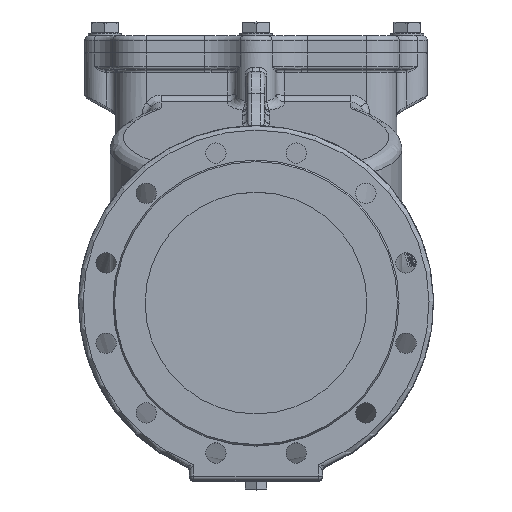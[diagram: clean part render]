
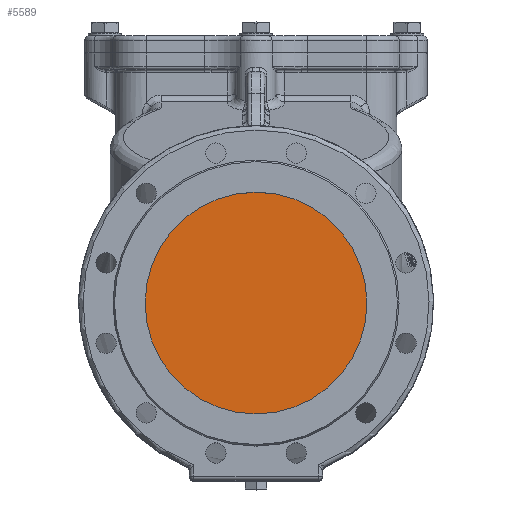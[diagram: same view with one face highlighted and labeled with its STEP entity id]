
A CAD part, top view. The second image highlights one B-rep face of the part: STEP entity #5589.
In plain terms, the highlighted planar face has unit normal (0, 0, 1).
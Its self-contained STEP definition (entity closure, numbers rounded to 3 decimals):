
#5589=ADVANCED_FACE('',(#15668),#15670,.T.);
#15668=FACE_BOUND('',#15669,.T.);
#15669=EDGE_LOOP('',(#20158));
#15670=PLANE('',#15671);
#15671=AXIS2_PLACEMENT_3D('',#15672,#15673,#15674);
#15672=CARTESIAN_POINT('',(0.,0.,590.));
#15673=DIRECTION('',(0.,0.,1.));
#15674=DIRECTION('',(1.,0.,0.));
#20158=ORIENTED_EDGE('',*,*,#22900,.T.);
#22900=EDGE_CURVE('',#25864,#25864,#25865,.T.);
#25864=VERTEX_POINT('',#60436);
#25865=CIRCLE('',#60437,125.);
#60436=CARTESIAN_POINT('',(0.,-125.,590.));
#60437=AXIS2_PLACEMENT_3D('',#60438,#60439,#60440);
#60438=CARTESIAN_POINT('',(0.,0.,590.));
#60439=DIRECTION('',(0.,0.,1.));
#60440=DIRECTION('',(-1.,0.,0.));
